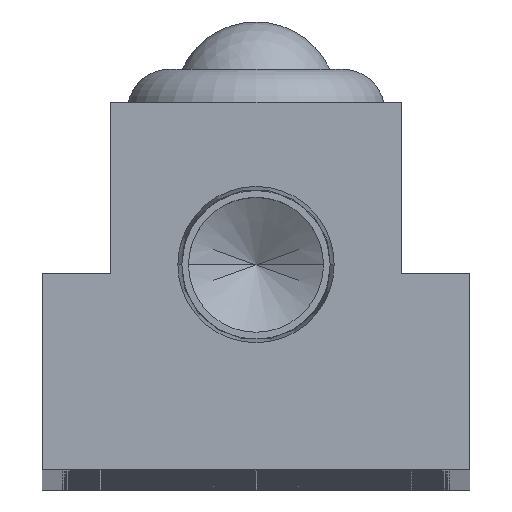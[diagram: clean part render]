
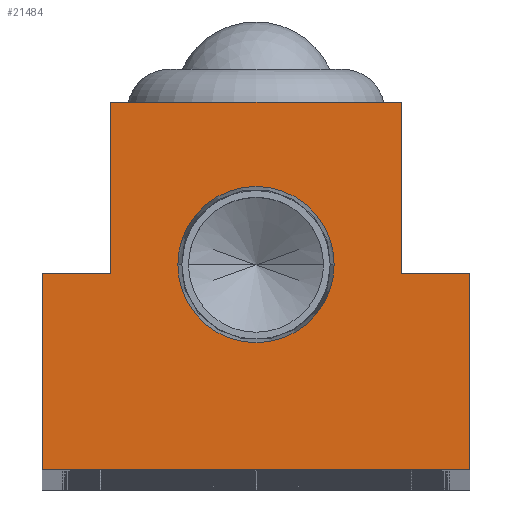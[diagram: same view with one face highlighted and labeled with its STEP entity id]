
A CAD part, top view. The second image highlights one B-rep face of the part: STEP entity #21484.
In plain terms, the highlighted planar face has unit normal (0, 0, 1).
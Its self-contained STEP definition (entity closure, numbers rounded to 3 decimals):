
#245 = VERTEX_POINT ( 'NONE', #3350 ) ;
#561 = VERTEX_POINT ( 'NONE', #13112 ) ;
#993 = VERTEX_POINT ( 'NONE', #4323 ) ;
#1039 = ORIENTED_EDGE ( 'NONE', *, *, #8673, .T. ) ;
#1121 = DIRECTION ( 'NONE',  ( 1., 0., 0. ) ) ;
#1386 = DIRECTION ( 'NONE',  ( -1., 0., 0. ) ) ;
#1591 = VERTEX_POINT ( 'NONE', #19919 ) ;
#1768 = CARTESIAN_POINT ( 'NONE',  ( -12.5, 11.5, 0. ) ) ;
#1862 = VERTEX_POINT ( 'NONE', #17361 ) ;
#2120 = AXIS2_PLACEMENT_3D ( 'NONE', #4531, #16891, #6277 ) ;
#2257 = ORIENTED_EDGE ( 'NONE', *, *, #18446, .T. ) ;
#2525 = ORIENTED_EDGE ( 'NONE', *, *, #20741, .F. ) ;
#2757 = FACE_BOUND ( 'NONE', #19581, .T. ) ;
#3350 = CARTESIAN_POINT ( 'NONE',  ( -8.5, 21.5, 0. ) ) ;
#3471 = CARTESIAN_POINT ( 'NONE',  ( 12.5, 11.5, 0. ) ) ;
#3727 = CARTESIAN_POINT ( 'NONE',  ( 12.5, 0., 0. ) ) ;
#3781 = DIRECTION ( 'NONE',  ( -1., 0., 0. ) ) ;
#4145 = LINE ( 'NONE', #19243, #12951 ) ;
#4323 = CARTESIAN_POINT ( 'NONE',  ( 8.5, 11.5, 0. ) ) ;
#4340 = EDGE_CURVE ( 'NONE', #12476, #5710, #16254, .T. ) ;
#4531 = CARTESIAN_POINT ( 'NONE',  ( 0., 12., 0. ) ) ;
#5052 = ORIENTED_EDGE ( 'NONE', *, *, #11933, .T. ) ;
#5128 = AXIS2_PLACEMENT_3D ( 'NONE', #22347, #11685, #1121 ) ;
#5138 = VERTEX_POINT ( 'NONE', #13927 ) ;
#5206 = CARTESIAN_POINT ( 'NONE',  ( -8.5, 11.5, 0. ) ) ;
#5368 = CIRCLE ( 'NONE', #5128, 4.574 ) ;
#5497 = DIRECTION ( 'NONE',  ( 0., 1., 0. ) ) ;
#5710 = VERTEX_POINT ( 'NONE', #1768 ) ;
#6277 = DIRECTION ( 'NONE',  ( 1., 0., 0. ) ) ;
#7369 = VECTOR ( 'NONE', #1386, 1000. ) ;
#7381 = VECTOR ( 'NONE', #9317, 1000. ) ;
#7415 = CIRCLE ( 'NONE', #2120, 4.574 ) ;
#7532 = LINE ( 'NONE', #12231, #16429 ) ;
#8673 = EDGE_CURVE ( 'NONE', #1862, #245, #21347, .T. ) ;
#8774 = DIRECTION ( 'NONE',  ( 0., -1., 0. ) ) ;
#8854 = CARTESIAN_POINT ( 'NONE',  ( 8.5, 21.5, 0. ) ) ;
#9317 = DIRECTION ( 'NONE',  ( -1., 0., 0. ) ) ;
#9323 = DIRECTION ( 'NONE',  ( 0., -1., 0. ) ) ;
#9690 = LINE ( 'NONE', #3727, #19135 ) ;
#9857 = EDGE_CURVE ( 'NONE', #13629, #11993, #9690, .T. ) ;
#10167 = CARTESIAN_POINT ( 'NONE',  ( -8.5, 11.5, 0. ) ) ;
#11372 = VECTOR ( 'NONE', #8774, 1000. ) ;
#11685 = DIRECTION ( 'NONE',  ( 0., 0., 1. ) ) ;
#11933 = EDGE_CURVE ( 'NONE', #993, #1862, #4145, .T. ) ;
#11993 = VERTEX_POINT ( 'NONE', #3471 ) ;
#12149 = CARTESIAN_POINT ( 'NONE',  ( 12.5, 0., 0. ) ) ;
#12230 = PLANE ( 'NONE',  #19071 ) ;
#12231 = CARTESIAN_POINT ( 'NONE',  ( -12.5, 0., 0. ) ) ;
#12257 = ORIENTED_EDGE ( 'NONE', *, *, #13421, .F. ) ;
#12476 = VERTEX_POINT ( 'NONE', #5206 ) ;
#12630 = EDGE_CURVE ( 'NONE', #11993, #993, #17386, .T. ) ;
#12754 = VECTOR ( 'NONE', #9323, 1000. ) ;
#12951 = VECTOR ( 'NONE', #21037, 1000. ) ;
#13112 = CARTESIAN_POINT ( 'NONE',  ( -12.5, 0., 0. ) ) ;
#13421 = EDGE_CURVE ( 'NONE', #1591, #5138, #5368, .T. ) ;
#13629 = VERTEX_POINT ( 'NONE', #12149 ) ;
#13927 = CARTESIAN_POINT ( 'NONE',  ( -4.574, 12., 0. ) ) ;
#14027 = DIRECTION ( 'NONE',  ( 1., 0., 0. ) ) ;
#14262 = EDGE_CURVE ( 'NONE', #245, #12476, #22240, .T. ) ;
#14424 = ORIENTED_EDGE ( 'NONE', *, *, #12630, .T. ) ;
#14591 = EDGE_CURVE ( 'NONE', #5710, #561, #20256, .T. ) ;
#14968 = ORIENTED_EDGE ( 'NONE', *, *, #9857, .T. ) ;
#15750 = DIRECTION ( 'NONE',  ( 0., 0., 1. ) ) ;
#15979 = ORIENTED_EDGE ( 'NONE', *, *, #4340, .T. ) ;
#16254 = LINE ( 'NONE', #10167, #7369 ) ;
#16309 = FACE_OUTER_BOUND ( 'NONE', #18183, .T. ) ;
#16429 = VECTOR ( 'NONE', #19399, 1000. ) ;
#16478 = CARTESIAN_POINT ( 'NONE',  ( -8.5, 21.5, 0. ) ) ;
#16600 = ORIENTED_EDGE ( 'NONE', *, *, #14262, .T. ) ;
#16630 = VECTOR ( 'NONE', #3781, 1000. ) ;
#16891 = DIRECTION ( 'NONE',  ( 0., 0., 1. ) ) ;
#17361 = CARTESIAN_POINT ( 'NONE',  ( 8.5, 21.5, 0. ) ) ;
#17386 = LINE ( 'NONE', #18187, #7381 ) ;
#18183 = EDGE_LOOP ( 'NONE', ( #14968, #14424, #5052, #1039, #16600, #15979, #21519, #2257 ) ) ;
#18187 = CARTESIAN_POINT ( 'NONE',  ( 12.5, 11.5, 0. ) ) ;
#18446 = EDGE_CURVE ( 'NONE', #561, #13629, #7532, .T. ) ;
#19071 = AXIS2_PLACEMENT_3D ( 'NONE', #21104, #15750, #14027 ) ;
#19135 = VECTOR ( 'NONE', #5497, 1000. ) ;
#19243 = CARTESIAN_POINT ( 'NONE',  ( 8.5, 11.5, 0. ) ) ;
#19399 = DIRECTION ( 'NONE',  ( 1., 0., 0. ) ) ;
#19412 = CARTESIAN_POINT ( 'NONE',  ( -12.5, 11.5, 0. ) ) ;
#19581 = EDGE_LOOP ( 'NONE', ( #12257, #2525 ) ) ;
#19919 = CARTESIAN_POINT ( 'NONE',  ( 4.574, 12., 0. ) ) ;
#20256 = LINE ( 'NONE', #19412, #11372 ) ;
#20741 = EDGE_CURVE ( 'NONE', #5138, #1591, #7415, .T. ) ;
#21037 = DIRECTION ( 'NONE',  ( 0., 1., 0. ) ) ;
#21104 = CARTESIAN_POINT ( 'NONE',  ( 0., 0., 0. ) ) ;
#21347 = LINE ( 'NONE', #8854, #16630 ) ;
#21484 = ADVANCED_FACE ( 'NONE', ( #2757, #16309 ), #12230, .T. ) ;
#21519 = ORIENTED_EDGE ( 'NONE', *, *, #14591, .T. ) ;
#22240 = LINE ( 'NONE', #16478, #12754 ) ;
#22347 = CARTESIAN_POINT ( 'NONE',  ( 0., 12., 0. ) ) ;
